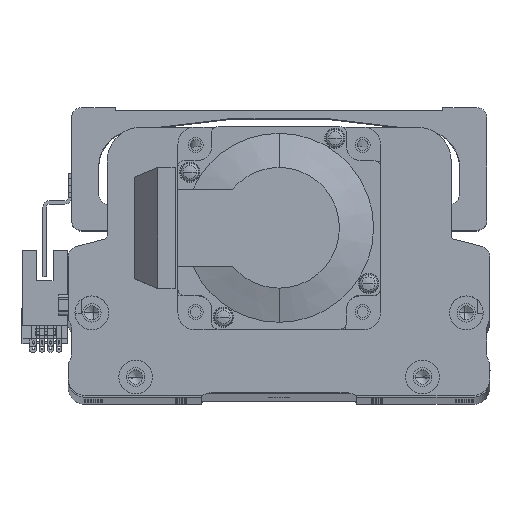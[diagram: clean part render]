
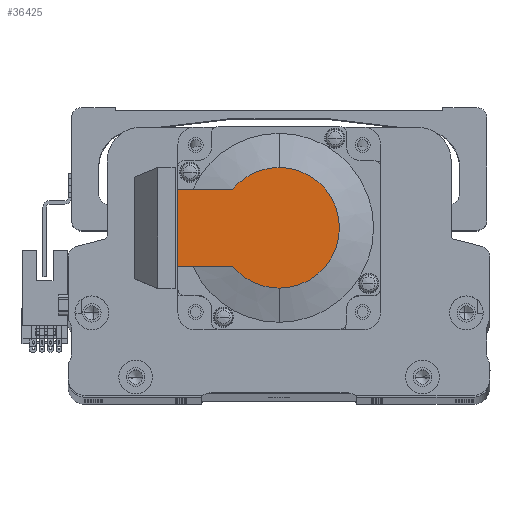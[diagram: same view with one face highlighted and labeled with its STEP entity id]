
A CAD part, top view. The second image highlights one B-rep face of the part: STEP entity #36425.
In plain terms, the highlighted planar face has unit normal (0, 0, 1) as drawn and (-1, 0, 0) by its records, which use the part's own axes.
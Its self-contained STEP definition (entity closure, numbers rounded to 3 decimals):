
#740 = VERTEX_POINT ( 'NONE', #12450 ) ;
#2151 = CARTESIAN_POINT ( 'NONE',  ( -118.5, 0., 17.881 ) ) ;
#2422 = EDGE_CURVE ( 'NONE', #31010, #11944, #26604, .T. ) ;
#2431 = DIRECTION ( 'NONE',  ( 0., 0., 1. ) ) ;
#2476 = DIRECTION ( 'NONE',  ( -1., 0., 0. ) ) ;
#3494 = DIRECTION ( 'NONE',  ( 0., -1., 0. ) ) ;
#3721 = ORIENTED_EDGE ( 'NONE', *, *, #2422, .T. ) ;
#4140 = AXIS2_PLACEMENT_3D ( 'NONE', #36743, #10798, #41099 ) ;
#4503 = ORIENTED_EDGE ( 'NONE', *, *, #23054, .T. ) ;
#5210 = LINE ( 'NONE', #20760, #50034 ) ;
#5750 = CARTESIAN_POINT ( 'NONE',  ( -118.5, 13.735, 11.45 ) ) ;
#8147 = VERTEX_POINT ( 'NONE', #15967 ) ;
#8391 = VERTEX_POINT ( 'NONE', #13073 ) ;
#9554 = EDGE_CURVE ( 'NONE', #740, #38625, #16330, .T. ) ;
#10798 = DIRECTION ( 'NONE',  ( -1., 0., 0. ) ) ;
#11944 = VERTEX_POINT ( 'NONE', #5750 ) ;
#11981 = AXIS2_PLACEMENT_3D ( 'NONE', #40787, #14807, #45132 ) ;
#12343 = LINE ( 'NONE', #50201, #34054 ) ;
#12450 = CARTESIAN_POINT ( 'NONE',  ( -118.5, 13.735, -11.45 ) ) ;
#13073 = CARTESIAN_POINT ( 'NONE',  ( -118.5, 30., 11.45 ) ) ;
#14082 = ORIENTED_EDGE ( 'NONE', *, *, #38776, .F. ) ;
#14807 = DIRECTION ( 'NONE',  ( -1., 0., 0. ) ) ;
#15967 = CARTESIAN_POINT ( 'NONE',  ( -118.5, 30., -11.45 ) ) ;
#16330 = CIRCLE ( 'NONE', #43894, 17.881 ) ;
#18190 = CARTESIAN_POINT ( 'NONE',  ( -118.5, 0., 0. ) ) ;
#19336 = PLANE ( 'NONE',  #4140 ) ;
#20760 = CARTESIAN_POINT ( 'NONE',  ( -118.5, 0., 11.45 ) ) ;
#22560 = DIRECTION ( 'NONE',  ( 0., 0., -1. ) ) ;
#23054 = EDGE_CURVE ( 'NONE', #38625, #31010, #44981, .T. ) ;
#24993 = AXIS2_PLACEMENT_3D ( 'NONE', #18190, #48490, #22560 ) ;
#25276 = EDGE_CURVE ( 'NONE', #8147, #740, #27762, .T. ) ;
#26604 = CIRCLE ( 'NONE', #11981, 17.881 ) ;
#27762 = LINE ( 'NONE', #47129, #49431 ) ;
#28488 = CARTESIAN_POINT ( 'NONE',  ( -118.5, 0., 0. ) ) ;
#31010 = VERTEX_POINT ( 'NONE', #2151 ) ;
#31136 = FACE_OUTER_BOUND ( 'NONE', #53433, .T. ) ;
#32793 = DIRECTION ( 'NONE',  ( 0., 0., -1. ) ) ;
#33052 = ORIENTED_EDGE ( 'NONE', *, *, #9554, .T. ) ;
#34054 = VECTOR ( 'NONE', #2431, 1000. ) ;
#35343 = ORIENTED_EDGE ( 'NONE', *, *, #25276, .T. ) ;
#36425 = ADVANCED_FACE ( 'NONE', ( #31136 ), #19336, .T. ) ;
#36743 = CARTESIAN_POINT ( 'NONE',  ( -118.5, -8.941, 0. ) ) ;
#38625 = VERTEX_POINT ( 'NONE', #40332 ) ;
#38776 = EDGE_CURVE ( 'NONE', #8147, #8391, #12343, .T. ) ;
#40332 = CARTESIAN_POINT ( 'NONE',  ( -118.5, 0., -17.881 ) ) ;
#40787 = CARTESIAN_POINT ( 'NONE',  ( -118.5, 0., 0. ) ) ;
#41099 = DIRECTION ( 'NONE',  ( 0., 0., 1. ) ) ;
#43894 = AXIS2_PLACEMENT_3D ( 'NONE', #28488, #2476, #32793 ) ;
#43978 = ORIENTED_EDGE ( 'NONE', *, *, #52203, .F. ) ;
#44981 = CIRCLE ( 'NONE', #24993, 17.881 ) ;
#45132 = DIRECTION ( 'NONE',  ( 0., 0., -1. ) ) ;
#47129 = CARTESIAN_POINT ( 'NONE',  ( -118.5, -8.941, -11.45 ) ) ;
#48490 = DIRECTION ( 'NONE',  ( -1., 0., 0. ) ) ;
#49431 = VECTOR ( 'NONE', #52069, 1000. ) ;
#50034 = VECTOR ( 'NONE', #3494, 1000. ) ;
#50201 = CARTESIAN_POINT ( 'NONE',  ( -118.5, 30., 25. ) ) ;
#52069 = DIRECTION ( 'NONE',  ( 0., -1., 0. ) ) ;
#52203 = EDGE_CURVE ( 'NONE', #8391, #11944, #5210, .T. ) ;
#53433 = EDGE_LOOP ( 'NONE', ( #35343, #33052, #4503, #3721, #43978, #14082 ) ) ;
